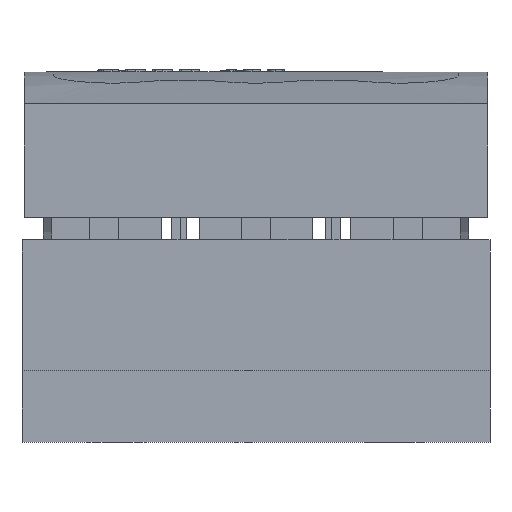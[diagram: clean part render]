
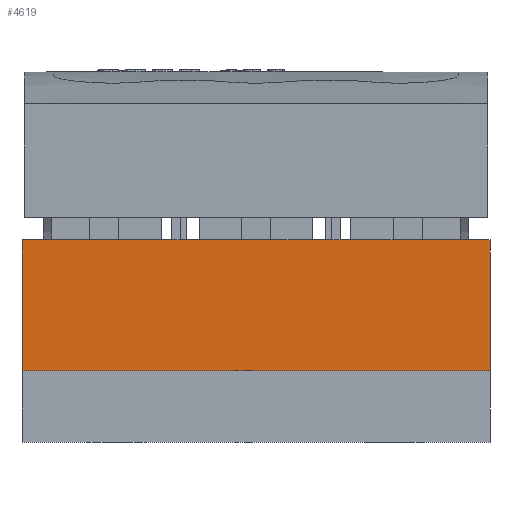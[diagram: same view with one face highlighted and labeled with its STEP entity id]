
A CAD part, front view. The second image highlights one B-rep face of the part: STEP entity #4619.
In plain terms, the highlighted planar face has unit normal (0, -1, 0).
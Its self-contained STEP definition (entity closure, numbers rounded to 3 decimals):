
#1570 = ORIENTED_EDGE ( 'NONE', *, *, #35275, .F. ) ;
#2847 = VERTEX_POINT ( 'NONE', #5843 ) ;
#3098 = CARTESIAN_POINT ( 'NONE',  ( -89.938, -91.25, 48. ) ) ;
#3158 = LINE ( 'NONE', #15803, #4404 ) ;
#3330 = ORIENTED_EDGE ( 'NONE', *, *, #32979, .F. ) ;
#4162 = LINE ( 'NONE', #26132, #25660 ) ;
#4404 = VECTOR ( 'NONE', #28449, 1000. ) ;
#4619 = ADVANCED_FACE ( 'NONE', ( #26095 ), #38762, .T. ) ;
#5843 = CARTESIAN_POINT ( 'NONE',  ( 55.5, -91.25, 48. ) ) ;
#9511 = DIRECTION ( 'NONE',  ( 0., 0., -1. ) ) ;
#9936 = CARTESIAN_POINT ( 'NONE',  ( -89.938, -91.25, 48. ) ) ;
#12187 = LINE ( 'NONE', #24848, #26948 ) ;
#12698 = AXIS2_PLACEMENT_3D ( 'NONE', #3098, #41077, #9511 ) ;
#13335 = EDGE_CURVE ( 'NONE', #24560, #31528, #3158, .T. ) ;
#15803 = CARTESIAN_POINT ( 'NONE',  ( -89.938, -91.25, 17. ) ) ;
#16702 = EDGE_LOOP ( 'NONE', ( #3330, #22877, #37217, #1570 ) ) ;
#17427 = DIRECTION ( 'NONE',  ( 0., 0., 1. ) ) ;
#17836 = CARTESIAN_POINT ( 'NONE',  ( -55.5, -91.25, 48. ) ) ;
#19070 = DIRECTION ( 'NONE',  ( 1., 0., 0. ) ) ;
#19471 = LINE ( 'NONE', #9936, #35027 ) ;
#22877 = ORIENTED_EDGE ( 'NONE', *, *, #13335, .T. ) ;
#23881 = CARTESIAN_POINT ( 'NONE',  ( 55.5, -91.25, 17. ) ) ;
#24560 = VERTEX_POINT ( 'NONE', #35109 ) ;
#24848 = CARTESIAN_POINT ( 'NONE',  ( 55.5, -91.25, 48. ) ) ;
#25491 = EDGE_CURVE ( 'NONE', #2847, #31528, #12187, .T. ) ;
#25660 = VECTOR ( 'NONE', #17427, 1000. ) ;
#26095 = FACE_OUTER_BOUND ( 'NONE', #16702, .T. ) ;
#26132 = CARTESIAN_POINT ( 'NONE',  ( -55.5, -91.25, 48. ) ) ;
#26948 = VECTOR ( 'NONE', #38112, 1000. ) ;
#28449 = DIRECTION ( 'NONE',  ( 1., 0., 0. ) ) ;
#31528 = VERTEX_POINT ( 'NONE', #23881 ) ;
#32979 = EDGE_CURVE ( 'NONE', #24560, #35783, #4162, .T. ) ;
#35027 = VECTOR ( 'NONE', #19070, 1000. ) ;
#35109 = CARTESIAN_POINT ( 'NONE',  ( -55.5, -91.25, 17. ) ) ;
#35275 = EDGE_CURVE ( 'NONE', #35783, #2847, #19471, .T. ) ;
#35783 = VERTEX_POINT ( 'NONE', #17836 ) ;
#37217 = ORIENTED_EDGE ( 'NONE', *, *, #25491, .F. ) ;
#38112 = DIRECTION ( 'NONE',  ( 0., 0., -1. ) ) ;
#38762 = PLANE ( 'NONE',  #12698 ) ;
#41077 = DIRECTION ( 'NONE',  ( 0., -1., 0. ) ) ;
